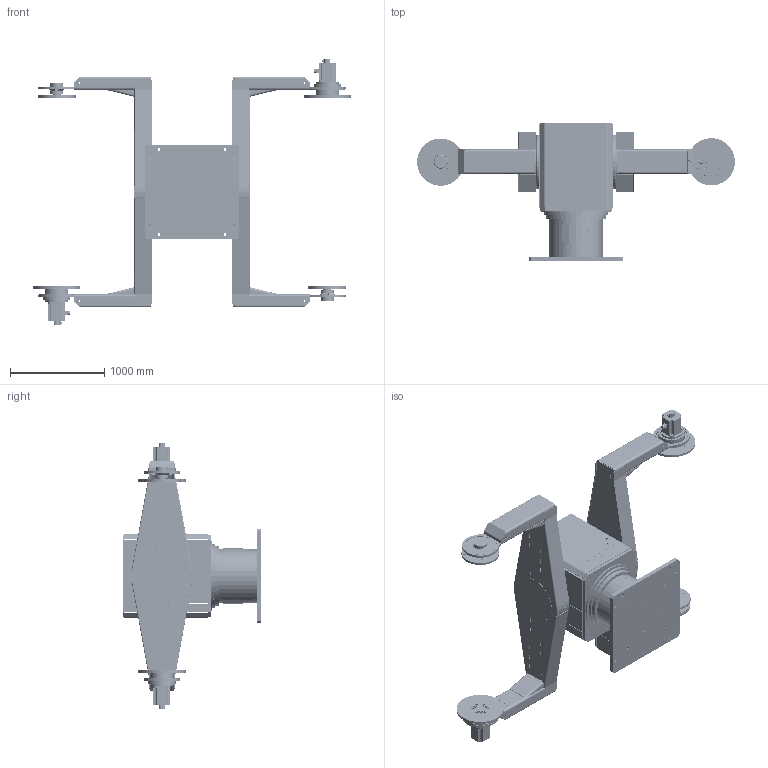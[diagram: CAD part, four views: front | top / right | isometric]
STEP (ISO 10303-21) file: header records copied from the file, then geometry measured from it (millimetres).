
FILE_DESCRIPTION (( 'STEP AP214' ), '1' );
FILE_NAME ('140683red.STEP', '2008-10-27T14:06:45', ( ' ' ), ( ' ' ), 'SwSTEP 2.0', 'SolidWorks 2008', '' );
FILE_SCHEMA (( 'AUTOMOTIVE_DESIGN' ));
Length unit declared in the file: millimetre
Products named in the file (6): 140683red; 126538red_Standard; 141780red_Standard; 127762red_Standard; 126773red_Standard; 141840red_Standard
Assembly tree (8 placements, depth 2):
  140683red
    126538red_Standard
    127762red_Standard  x2
    126773red_Standard  x2
    141780red_Standard
    141840red_Standard  x2
Bounding box: 3363.8 x 1464 x 2818 mm (x, y, z)
Volume: 135367834.2 mm3; surface area: 40260333.9 mm2
Topology: 86 solids, 130 shells, 5841 faces, 17419 edges, 11655 vertices
Faces by surface type: cylinder 3631, plane 1465, cone 617, torus 90, bspline 32, sphere 6
Entity records: 177956 total; most frequent: CARTESIAN_POINT 30151, DIRECTION 23714, ORIENTED_EDGE 20193, EDGE_CURVE 11782, AXIS2_PLACEMENT_3D 9213, VERTEX_POINT 8271, CIRCLE 5500, EDGE_LOOP 5372
